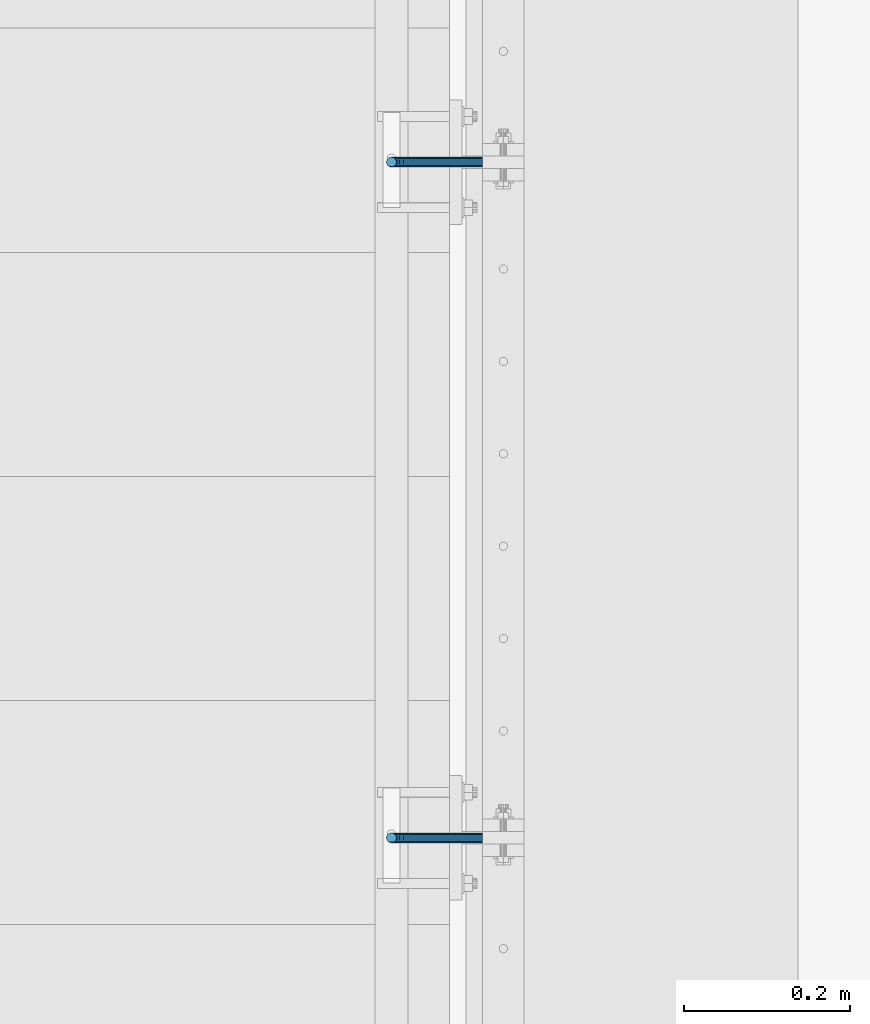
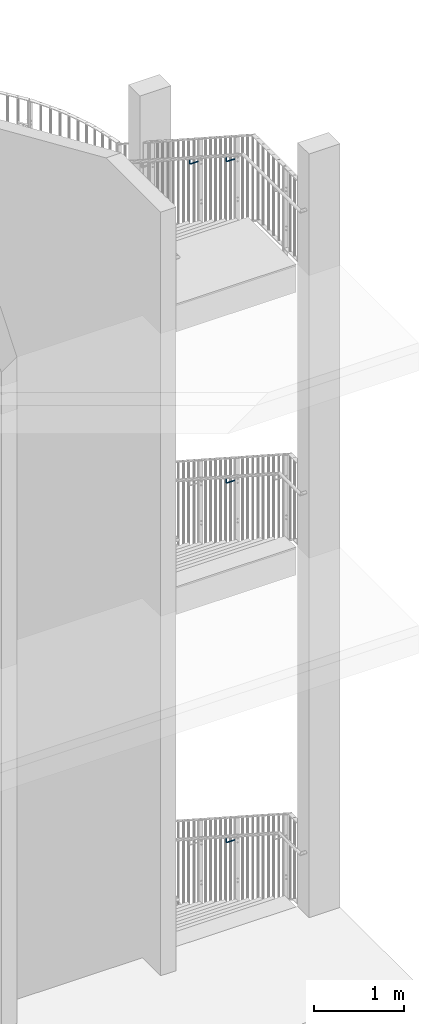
# One storey, part 136 of 296: 4 beams.
"""IFC2X3 building model written with IfcOpenShell, lengths in millimetres."""

from ifc_helpers import new_model, entity, si_unit, converted_unit, origin_with_axes, place, context, project, spatial, faceted_brep, material, element, save


model = new_model("IFC2X3")

# Units and contexts
model_context = context("Model", 3, precision=1e-09, world=origin_with_axes())
ifc_project = project(units=[si_unit("LENGTHUNIT", "METRE", prefix="MILLI"), si_unit("AREAUNIT", "SQUARE_METRE"), si_unit("VOLUMEUNIT", "CUBIC_METRE"), converted_unit("PLANEANGLEUNIT", "DEGREE", entity("IfcPlaneAngleMeasure", 0.01745329), si_unit("PLANEANGLEUNIT", "RADIAN"), dimensions=[0, 0, 0, 0, 0, 0, 0])], contexts=[model_context])

# Site, building, storey
site_placement = place(None, origin_with_axes())
site = spatial("IfcSite", under=ifc_project, at=site_placement, Name="TZD-S?d | Treppenhausgel?nder", CompositionType="ELEMENT")
building_placement = place(site_placement, origin_with_axes())
building = spatial("IfcBuilding", under=site, at=building_placement, Name="Struktur 1", CompositionType="ELEMENT")
storey_placement = place(building_placement, origin_with_axes())
storey = spatial("IfcBuildingStorey", under=building, at=storey_placement, Name="Default Storey", CompositionType="ELEMENT", Elevation=0.0)

# Beams
ifc_material = material(Name="S235JR")
beam_1_placement = place(None, origin_with_axes())
element("IfcBeam", 1, at=beam_1_placement, inside=storey, material=ifc_material, Name="-", ObjectType="-", context=model_context, shape_type="Brep", body=[
    faceted_brep([(5763.10541862, -2340.00184, 14262.792547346), (5756.89258138, -2340.00184, 14262.792547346), (5757.702899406, -2340.543277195, 14262.792547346), (5759.999, -2341.0, 14262.792547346), (5762.295100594, -2340.543277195, 14262.792547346), (5755.756359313, -2339.242640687, 14262.301009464), (5754.455722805, -2337.296100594, 14261.040736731), (5754.455722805, -2337.296100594, 14217.792547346), (5755.756359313, -2339.242640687, 14217.792547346), (5757.702899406, -2340.543277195, 14217.792547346), (5759.999, -2341.0, 14217.792547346), (5762.295100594, -2340.543277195, 14217.792547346), (5764.241640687, -2339.242640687, 14262.301009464), (5764.241640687, -2339.242640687, 14217.792547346), (5765.542277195, -2337.296100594, 14261.040736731), (5765.542277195, -2337.296100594, 14217.792547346), (5765.999, -2335.0, 14259.554143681), (5765.999, -2335.0, 14217.792547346), (5765.542277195, -2332.703899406, 14258.067550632), (5765.542277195, -2332.703899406, 14217.792547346), (5764.241640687, -2330.757359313, 14256.807277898), (5764.241640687, -2330.757359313, 14217.792547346), (5762.295100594, -2329.456722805, 14255.96519058), (5762.295100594, -2329.456722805, 14217.792547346), (5759.999, -2329.0, 14255.669488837), (5759.999, -2329.0, 14217.792547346), (5757.702899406, -2329.456722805, 14255.96519058), (5757.702899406, -2329.456722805, 14217.792547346), (5755.756359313, -2330.757359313, 14256.807277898), (5755.756359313, -2330.757359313, 14217.792547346), (5754.455722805, -2332.703899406, 14258.067550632), (5754.455722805, -2332.703899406, 14217.792547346), (5753.999, -2335.0, 14259.554143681), (5753.999, -2335.0, 14217.792547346), (5869.999, -2339.242640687, 14193.549906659), (5869.999, -2337.296100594, 14192.249270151), (5869.999, -2335.0, 14191.792547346), (5869.999, -2332.703899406, 14192.249270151), (5869.999, -2330.757359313, 14193.549906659), (5869.999, -2329.456722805, 14195.496446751), (5869.999, -2329.0, 14197.792547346), (5869.999, -2329.456722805, 14200.08864794), (5869.999, -2330.757359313, 14202.035188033), (5869.999, -2332.703899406, 14203.335824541), (5869.999, -2335.0, 14203.792547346), (5869.999, -2337.296100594, 14203.335824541), (5869.999, -2339.242640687, 14202.035188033), (5869.999, -2340.543277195, 14200.08864794), (5869.999, -2341.0, 14197.792547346), (5869.999, -2340.543277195, 14195.496446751), (5756.400089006, -2337.296100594, 14208.017558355), (5757.601720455, -2339.242640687, 14208.515290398), (5759.400089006, -2340.543277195, 14209.260199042), (5761.52140935, -2341.0, 14210.138878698), (5763.642729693, -2340.543277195, 14211.017558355), (5765.441098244, -2339.242640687, 14211.762466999), (5766.642729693, -2337.296100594, 14212.260199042), (5767.064686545, -2335.0, 14212.434979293), (5766.642729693, -2332.703899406, 14212.260199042), (5765.441098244, -2330.757359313, 14211.762466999), (5763.642729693, -2329.456722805, 14211.017558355), (5761.52140935, -2329.0, 14210.138878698), (5759.400089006, -2329.456722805, 14209.260199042), (5757.601720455, -2330.757359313, 14208.515290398), (5756.400089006, -2332.703899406, 14208.017558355), (5755.978132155, -2335.0, 14207.842778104), (5761.937175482, -2337.296100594, 14199.730722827), (5762.856864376, -2339.242640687, 14200.650411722), (5764.233276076, -2340.543277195, 14202.026823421), (5765.856864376, -2341.0, 14203.650411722), (5767.480452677, -2340.543277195, 14205.274000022), (5768.856864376, -2339.242640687, 14206.650411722), (5769.776553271, -2337.296100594, 14207.570100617), (5770.099505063, -2335.0, 14207.893052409), (5769.776553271, -2332.703899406, 14207.570100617), (5768.856864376, -2330.757359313, 14206.650411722), (5767.480452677, -2329.456722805, 14205.274000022), (5765.856864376, -2329.0, 14203.650411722), (5764.233276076, -2329.456722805, 14202.026823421), (5762.856864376, -2330.757359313, 14200.650411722), (5761.937175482, -2332.703899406, 14199.730722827), (5761.614223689, -2335.0, 14199.407771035), (5770.224011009, -2337.296100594, 14194.193636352), (5770.721743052, -2339.242640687, 14195.395267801), (5771.466651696, -2340.543277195, 14197.193636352), (5772.345331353, -2341.0, 14199.314956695), (5773.224011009, -2340.543277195, 14201.436277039), (5773.968919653, -2339.242640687, 14203.23464559), (5774.466651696, -2337.296100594, 14204.436277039), (5774.641431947, -2335.0, 14204.858233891), (5774.466651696, -2332.703899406, 14204.436277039), (5773.968919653, -2330.757359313, 14203.23464559), (5773.224011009, -2329.456722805, 14201.436277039), (5772.345331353, -2329.0, 14199.314956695), (5771.466651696, -2329.456722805, 14197.193636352), (5770.721743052, -2330.757359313, 14195.395267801), (5770.224011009, -2332.703899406, 14194.193636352), (5770.049230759, -2335.0, 14193.7716795), (5779.999, -2337.296100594, 14192.249270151), (5779.999, -2339.242640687, 14193.549906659), (5779.999, -2340.543277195, 14195.496446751), (5779.999, -2341.0, 14197.792547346), (5779.999, -2340.543277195, 14200.08864794), (5779.999, -2339.242640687, 14202.035188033), (5779.999, -2337.296100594, 14203.335824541), (5779.999, -2335.0, 14203.792547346), (5779.999, -2332.703899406, 14203.335824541), (5779.999, -2330.757359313, 14202.035188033), (5779.999, -2329.456722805, 14200.08864794), (5779.999, -2329.0, 14197.792547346), (5779.999, -2329.456722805, 14195.496446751), (5779.999, -2330.757359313, 14193.549906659), (5779.999, -2332.703899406, 14192.249270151), (5779.999, -2335.0, 14191.792547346)], [[[0, 1, 2, 3, 4]], [[5, 6, 7, 8]], [[1, 5, 8, 9, 2]], [[3, 2, 9, 10]], [[4, 3, 10, 11]], [[12, 0, 4, 11, 13]], [[14, 12, 13, 15]], [[16, 14, 15, 17]], [[18, 16, 17, 19]], [[20, 18, 19, 21]], [[22, 20, 21, 23]], [[24, 22, 23, 25]], [[26, 24, 25, 27]], [[28, 26, 27, 29]], [[30, 28, 29, 31]], [[32, 30, 31, 33]], [[6, 32, 33, 7]], [[14, 16, 18, 20, 22, 24, 26, 28, 30, 32, 6, 5, 1, 0, 12]], [[34, 35, 36, 37, 38, 39, 40, 41, 42, 43, 44, 45, 46, 47, 48, 49]], [[8, 7, 50, 51]], [[9, 8, 51, 52]], [[10, 9, 52, 53]], [[11, 10, 53, 54]], [[13, 11, 54, 55]], [[15, 13, 55, 56]], [[17, 15, 56, 57]], [[19, 17, 57, 58]], [[21, 19, 58, 59]], [[23, 21, 59, 60]], [[25, 23, 60, 61]], [[27, 25, 61, 62]], [[29, 27, 62, 63]], [[31, 29, 63, 64]], [[33, 31, 64, 65]], [[7, 33, 65, 50]], [[51, 50, 66, 67]], [[52, 51, 67, 68]], [[53, 52, 68, 69]], [[54, 53, 69, 70]], [[55, 54, 70, 71]], [[56, 55, 71, 72]], [[57, 56, 72, 73]], [[58, 57, 73, 74]], [[59, 58, 74, 75]], [[60, 59, 75, 76]], [[61, 60, 76, 77]], [[62, 61, 77, 78]], [[63, 62, 78, 79]], [[64, 63, 79, 80]], [[65, 64, 80, 81]], [[50, 65, 81, 66]], [[67, 66, 82, 83]], [[68, 67, 83, 84]], [[69, 68, 84, 85]], [[70, 69, 85, 86]], [[71, 70, 86, 87]], [[72, 71, 87, 88]], [[73, 72, 88, 89]], [[74, 73, 89, 90]], [[75, 74, 90, 91]], [[76, 75, 91, 92]], [[77, 76, 92, 93]], [[78, 77, 93, 94]], [[79, 78, 94, 95]], [[80, 79, 95, 96]], [[81, 80, 96, 97]], [[66, 81, 97, 82]], [[83, 82, 98, 99]], [[84, 83, 99, 100]], [[85, 84, 100, 101]], [[86, 85, 101, 102]], [[87, 86, 102, 103]], [[88, 87, 103, 104]], [[89, 88, 104, 105]], [[90, 89, 105, 106]], [[91, 90, 106, 107]], [[92, 91, 107, 108]], [[93, 92, 108, 109]], [[94, 93, 109, 110]], [[95, 94, 110, 111]], [[96, 95, 111, 112]], [[97, 96, 112, 113]], [[82, 97, 113, 98]], [[99, 98, 35, 34]], [[100, 99, 34, 49]], [[101, 100, 49, 48]], [[102, 101, 48, 47]], [[103, 102, 47, 46]], [[104, 103, 46, 45]], [[105, 104, 45, 44]], [[106, 105, 44, 43]], [[107, 106, 43, 42]], [[108, 107, 42, 41]], [[109, 108, 41, 40]], [[110, 109, 40, 39]], [[111, 110, 39, 38]], [[112, 111, 38, 37]], [[113, 112, 37, 36]], [[98, 113, 36, 35]]]),
])
beam_2_placement = place(None, origin_with_axes())
element("IfcBeam", 2, at=beam_2_placement, inside=storey, material=ifc_material, Name="-", ObjectType="-", context=model_context, shape_type="Brep", body=[
    faceted_brep([(5763.10541862, -1525.00184, 13735.126930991), (5756.89258138, -1525.00184, 13735.126930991), (5757.702899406, -1525.543277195, 13735.126930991), (5759.999, -1526.0, 13735.126930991), (5762.295100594, -1525.543277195, 13735.126930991), (5755.756359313, -1524.242640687, 13734.63539311), (5754.455722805, -1522.296100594, 13733.375120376), (5754.455722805, -1522.296100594, 13690.126930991), (5755.756359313, -1524.242640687, 13690.126930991), (5757.702899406, -1525.543277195, 13690.126930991), (5759.999, -1526.0, 13690.126930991), (5762.295100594, -1525.543277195, 13690.126930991), (5764.241640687, -1524.242640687, 13734.63539311), (5764.241640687, -1524.242640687, 13690.126930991), (5765.542277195, -1522.296100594, 13733.375120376), (5765.542277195, -1522.296100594, 13690.126930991), (5765.999, -1520.0, 13731.888527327), (5765.999, -1520.0, 13690.126930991), (5765.542277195, -1517.703899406, 13730.401934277), (5765.542277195, -1517.703899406, 13690.126930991), (5764.241640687, -1515.757359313, 13729.141661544), (5764.241640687, -1515.757359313, 13690.126930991), (5762.295100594, -1514.456722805, 13728.299574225), (5762.295100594, -1514.456722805, 13690.126930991), (5759.999, -1514.0, 13728.003872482), (5759.999, -1514.0, 13690.126930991), (5757.702899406, -1514.456722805, 13728.299574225), (5757.702899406, -1514.456722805, 13690.126930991), (5755.756359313, -1515.757359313, 13729.141661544), (5755.756359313, -1515.757359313, 13690.126930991), (5754.455722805, -1517.703899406, 13730.401934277), (5754.455722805, -1517.703899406, 13690.126930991), (5753.999, -1520.0, 13731.888527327), (5753.999, -1520.0, 13690.126930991), (5869.999, -1524.242640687, 13665.884290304), (5869.999, -1522.296100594, 13664.583653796), (5869.999, -1520.0, 13664.126930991), (5869.999, -1517.703899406, 13664.583653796), (5869.999, -1515.757359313, 13665.884290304), (5869.999, -1514.456722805, 13667.830830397), (5869.999, -1514.0, 13670.126930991), (5869.999, -1514.456722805, 13672.423031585), (5869.999, -1515.757359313, 13674.369571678), (5869.999, -1517.703899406, 13675.670208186), (5869.999, -1520.0, 13676.126930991), (5869.999, -1522.296100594, 13675.670208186), (5869.999, -1524.242640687, 13674.369571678), (5869.999, -1525.543277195, 13672.423031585), (5869.999, -1526.0, 13670.126930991), (5869.999, -1525.543277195, 13667.830830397), (5756.400089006, -1522.296100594, 13680.351942), (5757.601720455, -1524.242640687, 13680.849674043), (5759.400089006, -1525.543277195, 13681.594582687), (5761.52140935, -1526.0, 13682.473262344), (5763.642729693, -1525.543277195, 13683.351942), (5765.441098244, -1524.242640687, 13684.096850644), (5766.642729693, -1522.296100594, 13684.594582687), (5767.064686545, -1520.0, 13684.769362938), (5766.642729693, -1517.703899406, 13684.594582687), (5765.441098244, -1515.757359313, 13684.096850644), (5763.642729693, -1514.456722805, 13683.351942), (5761.52140935, -1514.0, 13682.473262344), (5759.400089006, -1514.456722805, 13681.594582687), (5757.601720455, -1515.757359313, 13680.849674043), (5756.400089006, -1517.703899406, 13680.351942), (5755.978132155, -1520.0, 13680.17716175), (5761.937175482, -1522.296100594, 13672.065106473), (5762.856864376, -1524.242640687, 13672.984795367), (5764.233276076, -1525.543277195, 13674.361207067), (5765.856864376, -1526.0, 13675.984795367), (5767.480452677, -1525.543277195, 13677.608383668), (5768.856864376, -1524.242640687, 13678.984795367), (5769.776553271, -1522.296100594, 13679.904484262), (5770.099505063, -1520.0, 13680.227436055), (5769.776553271, -1517.703899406, 13679.904484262), (5768.856864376, -1515.757359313, 13678.984795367), (5767.480452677, -1514.456722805, 13677.608383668), (5765.856864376, -1514.0, 13675.984795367), (5764.233276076, -1514.456722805, 13674.361207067), (5762.856864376, -1515.757359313, 13672.984795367), (5761.937175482, -1517.703899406, 13672.065106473), (5761.614223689, -1520.0, 13671.74215468), (5770.224011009, -1522.296100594, 13666.528019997), (5770.721743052, -1524.242640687, 13667.729651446), (5771.466651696, -1525.543277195, 13669.528019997), (5772.345331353, -1526.0, 13671.649340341), (5773.224011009, -1525.543277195, 13673.770660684), (5773.968919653, -1524.242640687, 13675.569029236), (5774.466651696, -1522.296100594, 13676.770660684), (5774.641431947, -1520.0, 13677.192617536), (5774.466651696, -1517.703899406, 13676.770660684), (5773.968919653, -1515.757359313, 13675.569029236), (5773.224011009, -1514.456722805, 13673.770660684), (5772.345331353, -1514.0, 13671.649340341), (5771.466651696, -1514.456722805, 13669.528019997), (5770.721743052, -1515.757359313, 13667.729651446), (5770.224011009, -1517.703899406, 13666.528019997), (5770.049230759, -1520.0, 13666.106063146), (5779.999, -1522.296100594, 13664.583653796), (5779.999, -1524.242640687, 13665.884290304), (5779.999, -1525.543277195, 13667.830830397), (5779.999, -1526.0, 13670.126930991), (5779.999, -1525.543277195, 13672.423031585), (5779.999, -1524.242640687, 13674.369571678), (5779.999, -1522.296100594, 13675.670208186), (5779.999, -1520.0, 13676.126930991), (5779.999, -1517.703899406, 13675.670208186), (5779.999, -1515.757359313, 13674.369571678), (5779.999, -1514.456722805, 13672.423031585), (5779.999, -1514.0, 13670.126930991), (5779.999, -1514.456722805, 13667.830830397), (5779.999, -1515.757359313, 13665.884290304), (5779.999, -1517.703899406, 13664.583653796), (5779.999, -1520.0, 13664.126930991)], [[[0, 1, 2, 3, 4]], [[5, 6, 7, 8]], [[1, 5, 8, 9, 2]], [[3, 2, 9, 10]], [[4, 3, 10, 11]], [[12, 0, 4, 11, 13]], [[14, 12, 13, 15]], [[16, 14, 15, 17]], [[18, 16, 17, 19]], [[20, 18, 19, 21]], [[22, 20, 21, 23]], [[24, 22, 23, 25]], [[26, 24, 25, 27]], [[28, 26, 27, 29]], [[30, 28, 29, 31]], [[32, 30, 31, 33]], [[6, 32, 33, 7]], [[14, 16, 18, 20, 22, 24, 26, 28, 30, 32, 6, 5, 1, 0, 12]], [[34, 35, 36, 37, 38, 39, 40, 41, 42, 43, 44, 45, 46, 47, 48, 49]], [[8, 7, 50, 51]], [[9, 8, 51, 52]], [[10, 9, 52, 53]], [[11, 10, 53, 54]], [[13, 11, 54, 55]], [[15, 13, 55, 56]], [[17, 15, 56, 57]], [[19, 17, 57, 58]], [[21, 19, 58, 59]], [[23, 21, 59, 60]], [[25, 23, 60, 61]], [[27, 25, 61, 62]], [[29, 27, 62, 63]], [[31, 29, 63, 64]], [[33, 31, 64, 65]], [[7, 33, 65, 50]], [[51, 50, 66, 67]], [[52, 51, 67, 68]], [[53, 52, 68, 69]], [[54, 53, 69, 70]], [[55, 54, 70, 71]], [[56, 55, 71, 72]], [[57, 56, 72, 73]], [[58, 57, 73, 74]], [[59, 58, 74, 75]], [[60, 59, 75, 76]], [[61, 60, 76, 77]], [[62, 61, 77, 78]], [[63, 62, 78, 79]], [[64, 63, 79, 80]], [[65, 64, 80, 81]], [[50, 65, 81, 66]], [[67, 66, 82, 83]], [[68, 67, 83, 84]], [[69, 68, 84, 85]], [[70, 69, 85, 86]], [[71, 70, 86, 87]], [[72, 71, 87, 88]], [[73, 72, 88, 89]], [[74, 73, 89, 90]], [[75, 74, 90, 91]], [[76, 75, 91, 92]], [[77, 76, 92, 93]], [[78, 77, 93, 94]], [[79, 78, 94, 95]], [[80, 79, 95, 96]], [[81, 80, 96, 97]], [[66, 81, 97, 82]], [[83, 82, 98, 99]], [[84, 83, 99, 100]], [[85, 84, 100, 101]], [[86, 85, 101, 102]], [[87, 86, 102, 103]], [[88, 87, 103, 104]], [[89, 88, 104, 105]], [[90, 89, 105, 106]], [[91, 90, 106, 107]], [[92, 91, 107, 108]], [[93, 92, 108, 109]], [[94, 93, 109, 110]], [[95, 94, 110, 111]], [[96, 95, 111, 112]], [[97, 96, 112, 113]], [[82, 97, 113, 98]], [[99, 98, 35, 34]], [[100, 99, 34, 49]], [[101, 100, 49, 48]], [[102, 101, 48, 47]], [[103, 102, 47, 46]], [[104, 103, 46, 45]], [[105, 104, 45, 44]], [[106, 105, 44, 43]], [[107, 106, 43, 42]], [[108, 107, 42, 41]], [[109, 108, 41, 40]], [[110, 109, 40, 39]], [[111, 110, 39, 38]], [[112, 111, 38, 37]], [[113, 112, 37, 36]], [[98, 113, 36, 35]]]),
])
beam_3_placement = place(None, origin_with_axes())
element("IfcBeam", 3, at=beam_3_placement, inside=storey, material=ifc_material, Name="-", ObjectType="-", context=model_context, shape_type="Brep", body=[
    faceted_brep([(5763.105419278, -2340.00183956, 9884.861944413), (5756.892580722, -2340.00183956, 9884.861944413), (5757.702899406, -2340.543277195, 9884.861944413), (5759.999, -2341.0, 9884.861944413), (5762.295100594, -2340.543277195, 9884.861944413), (5755.756359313, -2339.242640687, 9884.370240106), (5754.455722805, -2337.296100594, 9883.109539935), (5754.455722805, -2337.296100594, 9839.861944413), (5755.756359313, -2339.242640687, 9839.861944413), (5757.702899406, -2340.543277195, 9839.861944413), (5759.999, -2341.0, 9839.861944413), (5762.295100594, -2340.543277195, 9839.861944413), (5764.241640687, -2339.242640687, 9884.370240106), (5764.241640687, -2339.242640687, 9839.861944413), (5765.542277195, -2337.296100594, 9883.109539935), (5765.542277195, -2337.296100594, 9839.861944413), (5765.999, -2335.0, 9881.622442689), (5765.999, -2335.0, 9839.861944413), (5765.542277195, -2332.703899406, 9880.135345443), (5765.542277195, -2332.703899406, 9839.861944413), (5764.241640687, -2330.757359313, 9878.874645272), (5764.241640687, -2330.757359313, 9839.861944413), (5762.295100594, -2329.456722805, 9878.032272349), (5762.295100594, -2329.456722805, 9839.861944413), (5759.999, -2329.0, 9877.736470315), (5759.999, -2329.0, 9839.861944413), (5757.702899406, -2329.456722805, 9878.032272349), (5757.702899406, -2329.456722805, 9839.861944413), (5755.756359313, -2330.757359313, 9878.874645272), (5755.756359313, -2330.757359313, 9839.861944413), (5754.455722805, -2332.703899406, 9880.135345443), (5754.455722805, -2332.703899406, 9839.861944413), (5753.999, -2335.0, 9881.622442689), (5753.999, -2335.0, 9839.861944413), (5869.999, -2339.242640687, 9815.619303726), (5869.999, -2337.296100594, 9814.318667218), (5869.999, -2335.0, 9813.861944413), (5869.999, -2332.703899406, 9814.318667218), (5869.999, -2330.757359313, 9815.619303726), (5869.999, -2329.456722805, 9817.565843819), (5869.999, -2329.0, 9819.861944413), (5869.999, -2329.456722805, 9822.158045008), (5869.999, -2330.757359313, 9824.104585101), (5869.999, -2332.703899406, 9825.405221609), (5869.999, -2335.0, 9825.861944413), (5869.999, -2337.296100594, 9825.405221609), (5869.999, -2339.242640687, 9824.104585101), (5869.999, -2340.543277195, 9822.158045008), (5869.999, -2341.0, 9819.861944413), (5869.999, -2340.543277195, 9817.565843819), (5756.400089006, -2337.296100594, 9830.086955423), (5757.601720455, -2339.242640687, 9830.584687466), (5759.400089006, -2340.543277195, 9831.32959611), (5761.52140935, -2341.0, 9832.208275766), (5763.642729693, -2340.543277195, 9833.086955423), (5765.441098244, -2339.242640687, 9833.831864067), (5766.642729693, -2337.296100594, 9834.32959611), (5767.064686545, -2335.0, 9834.50437636), (5766.642729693, -2332.703899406, 9834.32959611), (5765.441098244, -2330.757359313, 9833.831864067), (5763.642729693, -2329.456722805, 9833.086955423), (5761.52140935, -2329.0, 9832.208275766), (5759.400089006, -2329.456722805, 9831.32959611), (5757.601720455, -2330.757359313, 9830.584687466), (5756.400089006, -2332.703899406, 9830.086955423), (5755.978132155, -2335.0, 9829.912175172), (5761.937175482, -2337.296100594, 9821.800119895), (5762.856864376, -2339.242640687, 9822.71980879), (5764.233276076, -2340.543277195, 9824.096220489), (5765.856864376, -2341.0, 9825.71980879), (5767.480452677, -2340.543277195, 9827.34339709), (5768.856864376, -2339.242640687, 9828.71980879), (5769.776553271, -2337.296100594, 9829.639497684), (5770.099505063, -2335.0, 9829.962449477), (5769.776553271, -2332.703899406, 9829.639497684), (5768.856864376, -2330.757359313, 9828.71980879), (5767.480452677, -2329.456722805, 9827.34339709), (5765.856864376, -2329.0, 9825.71980879), (5764.233276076, -2329.456722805, 9824.096220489), (5762.856864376, -2330.757359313, 9822.71980879), (5761.937175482, -2332.703899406, 9821.800119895), (5761.614223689, -2335.0, 9821.477168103), (5770.224011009, -2337.296100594, 9816.26303342), (5770.721743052, -2339.242640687, 9817.464664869), (5771.466651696, -2340.543277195, 9819.26303342), (5772.345331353, -2341.0, 9821.384353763), (5773.224011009, -2340.543277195, 9823.505674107), (5773.968919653, -2339.242640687, 9825.304042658), (5774.466651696, -2337.296100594, 9826.505674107), (5774.641431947, -2335.0, 9826.927630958), (5774.466651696, -2332.703899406, 9826.505674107), (5773.968919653, -2330.757359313, 9825.304042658), (5773.224011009, -2329.456722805, 9823.505674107), (5772.345331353, -2329.0, 9821.384353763), (5771.466651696, -2329.456722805, 9819.26303342), (5770.721743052, -2330.757359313, 9817.464664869), (5770.224011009, -2332.703899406, 9816.26303342), (5770.049230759, -2335.0, 9815.841076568), (5779.999, -2337.296100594, 9814.318667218), (5779.999, -2339.242640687, 9815.619303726), (5779.999, -2340.543277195, 9817.565843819), (5779.999, -2341.0, 9819.861944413), (5779.999, -2340.543277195, 9822.158045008), (5779.999, -2339.242640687, 9824.104585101), (5779.999, -2337.296100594, 9825.405221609), (5779.999, -2335.0, 9825.861944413), (5779.999, -2332.703899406, 9825.405221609), (5779.999, -2330.757359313, 9824.104585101), (5779.999, -2329.456722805, 9822.158045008), (5779.999, -2329.0, 9819.861944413), (5779.999, -2329.456722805, 9817.565843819), (5779.999, -2330.757359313, 9815.619303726), (5779.999, -2332.703899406, 9814.318667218), (5779.999, -2335.0, 9813.861944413)], [[[0, 1, 2, 3, 4]], [[5, 6, 7, 8]], [[1, 5, 8, 9, 2]], [[3, 2, 9, 10]], [[4, 3, 10, 11]], [[12, 0, 4, 11, 13]], [[14, 12, 13, 15]], [[16, 14, 15, 17]], [[18, 16, 17, 19]], [[20, 18, 19, 21]], [[22, 20, 21, 23]], [[24, 22, 23, 25]], [[26, 24, 25, 27]], [[28, 26, 27, 29]], [[30, 28, 29, 31]], [[32, 30, 31, 33]], [[6, 32, 33, 7]], [[14, 16, 18, 20, 22, 24, 26, 28, 30, 32, 6, 5, 1, 0, 12]], [[34, 35, 36, 37, 38, 39, 40, 41, 42, 43, 44, 45, 46, 47, 48, 49]], [[8, 7, 50, 51]], [[9, 8, 51, 52]], [[10, 9, 52, 53]], [[11, 10, 53, 54]], [[13, 11, 54, 55]], [[15, 13, 55, 56]], [[17, 15, 56, 57]], [[19, 17, 57, 58]], [[21, 19, 58, 59]], [[23, 21, 59, 60]], [[25, 23, 60, 61]], [[27, 25, 61, 62]], [[29, 27, 62, 63]], [[31, 29, 63, 64]], [[33, 31, 64, 65]], [[7, 33, 65, 50]], [[51, 50, 66, 67]], [[52, 51, 67, 68]], [[53, 52, 68, 69]], [[54, 53, 69, 70]], [[55, 54, 70, 71]], [[56, 55, 71, 72]], [[57, 56, 72, 73]], [[58, 57, 73, 74]], [[59, 58, 74, 75]], [[60, 59, 75, 76]], [[61, 60, 76, 77]], [[62, 61, 77, 78]], [[63, 62, 78, 79]], [[64, 63, 79, 80]], [[65, 64, 80, 81]], [[50, 65, 81, 66]], [[67, 66, 82, 83]], [[68, 67, 83, 84]], [[69, 68, 84, 85]], [[70, 69, 85, 86]], [[71, 70, 86, 87]], [[72, 71, 87, 88]], [[73, 72, 88, 89]], [[74, 73, 89, 90]], [[75, 74, 90, 91]], [[76, 75, 91, 92]], [[77, 76, 92, 93]], [[78, 77, 93, 94]], [[79, 78, 94, 95]], [[80, 79, 95, 96]], [[81, 80, 96, 97]], [[66, 81, 97, 82]], [[83, 82, 98, 99]], [[84, 83, 99, 100]], [[85, 84, 100, 101]], [[86, 85, 101, 102]], [[87, 86, 102, 103]], [[88, 87, 103, 104]], [[89, 88, 104, 105]], [[90, 89, 105, 106]], [[91, 90, 106, 107]], [[92, 91, 107, 108]], [[93, 92, 108, 109]], [[94, 93, 109, 110]], [[95, 94, 110, 111]], [[96, 95, 111, 112]], [[97, 96, 112, 113]], [[82, 97, 113, 98]], [[99, 98, 35, 34]], [[100, 99, 34, 49]], [[101, 100, 49, 48]], [[102, 101, 48, 47]], [[103, 102, 47, 46]], [[104, 103, 46, 45]], [[105, 104, 45, 44]], [[106, 105, 44, 43]], [[107, 106, 43, 42]], [[108, 107, 42, 41]], [[109, 108, 41, 40]], [[110, 109, 40, 39]], [[111, 110, 39, 38]], [[112, 111, 38, 37]], [[113, 112, 37, 36]], [[98, 113, 36, 35]]]),
])
beam_4_placement = place(None, origin_with_axes())
element("IfcBeam", 4, at=beam_4_placement, inside=storey, material=ifc_material, Name="-", ObjectType="-", context=model_context, shape_type="Brep", body=[
    faceted_brep([(5763.105415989, -2340.001841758, 4989.417636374), (5756.892584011, -2340.001841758, 4989.417636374), (5757.702899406, -2340.543277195, 4989.417636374), (5759.999, -2341.0, 4989.417636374), (5762.295100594, -2340.543277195, 4989.417636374), (5755.756359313, -2339.242640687, 4988.926762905), (5754.455722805, -2337.296100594, 4987.6681966), (5754.455722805, -2337.296100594, 4944.417636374), (5755.756359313, -2339.242640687, 4944.417636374), (5757.702899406, -2340.543277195, 4944.417636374), (5759.999, -2341.0, 4944.417636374), (5762.295100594, -2340.543277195, 4944.417636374), (5764.241640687, -2339.242640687, 4988.926762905), (5764.241640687, -2339.242640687, 4944.417636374), (5765.542277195, -2337.296100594, 4987.6681966), (5765.542277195, -2337.296100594, 4944.417636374), (5765.999, -2335.0, 4986.18361642), (5765.999, -2335.0, 4944.417636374), (5765.542277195, -2332.703899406, 4984.69903624), (5765.542277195, -2332.703899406, 4944.417636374), (5764.241640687, -2330.757359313, 4983.440469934), (5764.241640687, -2330.757359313, 4944.417636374), (5762.295100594, -2329.456722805, 4982.599522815), (5762.295100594, -2329.456722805, 4944.417636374), (5759.999, -2329.0, 4982.304221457), (5759.999, -2329.0, 4944.417636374), (5757.702899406, -2329.456722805, 4982.599522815), (5757.702899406, -2329.456722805, 4944.417636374), (5755.756359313, -2330.757359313, 4983.440469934), (5755.756359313, -2330.757359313, 4944.417636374), (5754.455722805, -2332.703899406, 4984.69903624), (5754.455722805, -2332.703899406, 4944.417636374), (5753.999, -2335.0, 4986.18361642), (5753.999, -2335.0, 4944.417636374), (5869.999, -2339.242640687, 4920.174995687), (5869.999, -2337.296100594, 4918.874359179), (5869.999, -2335.0, 4918.417636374), (5869.999, -2332.703899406, 4918.874359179), (5869.999, -2330.757359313, 4920.174995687), (5869.999, -2329.456722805, 4922.12153578), (5869.999, -2329.0, 4924.417636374), (5869.999, -2329.456722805, 4926.713736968), (5869.999, -2330.757359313, 4928.660277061), (5869.999, -2332.703899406, 4929.960913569), (5869.999, -2335.0, 4930.417636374), (5869.999, -2337.296100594, 4929.960913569), (5869.999, -2339.242640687, 4928.660277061), (5869.999, -2340.543277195, 4926.713736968), (5869.999, -2341.0, 4924.417636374), (5869.999, -2340.543277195, 4922.12153578), (5756.400089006, -2337.296100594, 4934.642647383), (5757.601720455, -2339.242640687, 4935.140379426), (5759.400089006, -2340.543277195, 4935.88528807), (5761.52140935, -2341.0, 4936.763967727), (5763.642729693, -2340.543277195, 4937.642647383), (5765.441098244, -2339.242640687, 4938.387556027), (5766.642729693, -2337.296100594, 4938.88528807), (5767.064686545, -2335.0, 4939.060068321), (5766.642729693, -2332.703899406, 4938.88528807), (5765.441098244, -2330.757359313, 4938.387556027), (5763.642729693, -2329.456722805, 4937.642647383), (5761.52140935, -2329.0, 4936.763967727), (5759.400089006, -2329.456722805, 4935.88528807), (5757.601720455, -2330.757359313, 4935.140379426), (5756.400089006, -2332.703899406, 4934.642647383), (5755.978132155, -2335.0, 4934.467867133), (5761.937175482, -2337.296100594, 4926.355811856), (5762.856864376, -2339.242640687, 4927.27550075), (5764.233276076, -2340.543277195, 4928.65191245), (5765.856864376, -2341.0, 4930.27550075), (5767.480452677, -2340.543277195, 4931.899089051), (5768.856864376, -2339.242640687, 4933.27550075), (5769.776553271, -2337.296100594, 4934.195189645), (5770.099505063, -2335.0, 4934.518141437), (5769.776553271, -2332.703899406, 4934.195189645), (5768.856864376, -2330.757359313, 4933.27550075), (5767.480452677, -2329.456722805, 4931.899089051), (5765.856864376, -2329.0, 4930.27550075), (5764.233276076, -2329.456722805, 4928.65191245), (5762.856864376, -2330.757359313, 4927.27550075), (5761.937175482, -2332.703899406, 4926.355811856), (5761.614223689, -2335.0, 4926.032860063), (5770.224011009, -2337.296100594, 4920.81872538), (5770.721743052, -2339.242640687, 4922.020356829), (5771.466651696, -2340.543277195, 4923.81872538), (5772.345331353, -2341.0, 4925.940045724), (5773.224011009, -2340.543277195, 4928.061366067), (5773.968919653, -2339.242640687, 4929.859734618), (5774.466651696, -2337.296100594, 4931.061366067), (5774.641431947, -2335.0, 4931.483322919), (5774.466651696, -2332.703899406, 4931.061366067), (5773.968919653, -2330.757359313, 4929.859734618), (5773.224011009, -2329.456722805, 4928.061366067), (5772.345331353, -2329.0, 4925.940045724), (5771.466651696, -2329.456722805, 4923.81872538), (5770.721743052, -2330.757359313, 4922.020356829), (5770.224011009, -2332.703899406, 4920.81872538), (5770.049230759, -2335.0, 4920.396768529), (5779.999, -2337.296100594, 4918.874359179), (5779.999, -2339.242640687, 4920.174995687), (5779.999, -2340.543277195, 4922.12153578), (5779.999, -2341.0, 4924.417636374), (5779.999, -2340.543277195, 4926.713736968), (5779.999, -2339.242640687, 4928.660277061), (5779.999, -2337.296100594, 4929.960913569), (5779.999, -2335.0, 4930.417636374), (5779.999, -2332.703899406, 4929.960913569), (5779.999, -2330.757359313, 4928.660277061), (5779.999, -2329.456722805, 4926.713736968), (5779.999, -2329.0, 4924.417636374), (5779.999, -2329.456722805, 4922.12153578), (5779.999, -2330.757359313, 4920.174995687), (5779.999, -2332.703899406, 4918.874359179), (5779.999, -2335.0, 4918.417636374)], [[[0, 1, 2, 3, 4]], [[5, 6, 7, 8]], [[1, 5, 8, 9, 2]], [[3, 2, 9, 10]], [[4, 3, 10, 11]], [[12, 0, 4, 11, 13]], [[14, 12, 13, 15]], [[16, 14, 15, 17]], [[18, 16, 17, 19]], [[20, 18, 19, 21]], [[22, 20, 21, 23]], [[24, 22, 23, 25]], [[26, 24, 25, 27]], [[28, 26, 27, 29]], [[30, 28, 29, 31]], [[32, 30, 31, 33]], [[6, 32, 33, 7]], [[14, 16, 18, 20, 22, 24, 26, 28, 30, 32, 6, 5, 1, 0, 12]], [[34, 35, 36, 37, 38, 39, 40, 41, 42, 43, 44, 45, 46, 47, 48, 49]], [[8, 7, 50, 51]], [[9, 8, 51, 52]], [[10, 9, 52, 53]], [[11, 10, 53, 54]], [[13, 11, 54, 55]], [[15, 13, 55, 56]], [[17, 15, 56, 57]], [[19, 17, 57, 58]], [[21, 19, 58, 59]], [[23, 21, 59, 60]], [[25, 23, 60, 61]], [[27, 25, 61, 62]], [[29, 27, 62, 63]], [[31, 29, 63, 64]], [[33, 31, 64, 65]], [[7, 33, 65, 50]], [[51, 50, 66, 67]], [[52, 51, 67, 68]], [[53, 52, 68, 69]], [[54, 53, 69, 70]], [[55, 54, 70, 71]], [[56, 55, 71, 72]], [[57, 56, 72, 73]], [[58, 57, 73, 74]], [[59, 58, 74, 75]], [[60, 59, 75, 76]], [[61, 60, 76, 77]], [[62, 61, 77, 78]], [[63, 62, 78, 79]], [[64, 63, 79, 80]], [[65, 64, 80, 81]], [[50, 65, 81, 66]], [[67, 66, 82, 83]], [[68, 67, 83, 84]], [[69, 68, 84, 85]], [[70, 69, 85, 86]], [[71, 70, 86, 87]], [[72, 71, 87, 88]], [[73, 72, 88, 89]], [[74, 73, 89, 90]], [[75, 74, 90, 91]], [[76, 75, 91, 92]], [[77, 76, 92, 93]], [[78, 77, 93, 94]], [[79, 78, 94, 95]], [[80, 79, 95, 96]], [[81, 80, 96, 97]], [[66, 81, 97, 82]], [[83, 82, 98, 99]], [[84, 83, 99, 100]], [[85, 84, 100, 101]], [[86, 85, 101, 102]], [[87, 86, 102, 103]], [[88, 87, 103, 104]], [[89, 88, 104, 105]], [[90, 89, 105, 106]], [[91, 90, 106, 107]], [[92, 91, 107, 108]], [[93, 92, 108, 109]], [[94, 93, 109, 110]], [[95, 94, 110, 111]], [[96, 95, 111, 112]], [[97, 96, 112, 113]], [[82, 97, 113, 98]], [[99, 98, 35, 34]], [[100, 99, 34, 49]], [[101, 100, 49, 48]], [[102, 101, 48, 47]], [[103, 102, 47, 46]], [[104, 103, 46, 45]], [[105, 104, 45, 44]], [[106, 105, 44, 43]], [[107, 106, 43, 42]], [[108, 107, 42, 41]], [[109, 108, 41, 40]], [[110, 109, 40, 39]], [[111, 110, 39, 38]], [[112, 111, 38, 37]], [[113, 112, 37, 36]], [[98, 113, 36, 35]]]),
])

save(model, "model.ifc")
